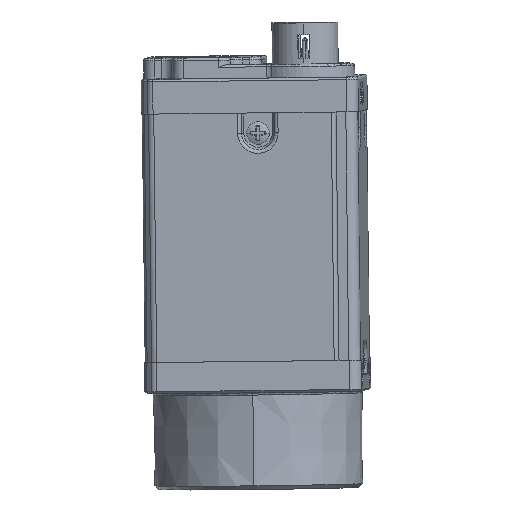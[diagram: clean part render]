
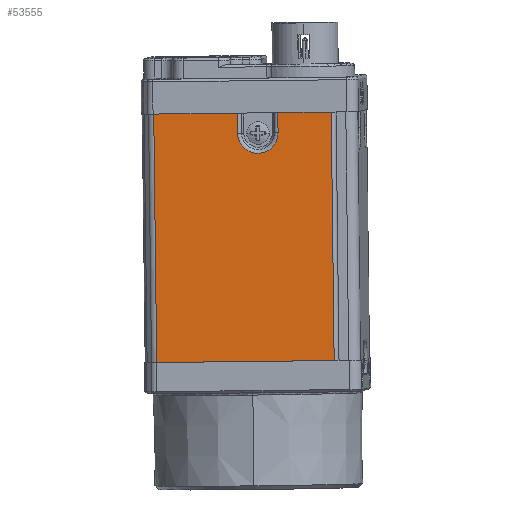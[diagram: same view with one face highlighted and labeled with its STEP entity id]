
A CAD part, left-side view. The second image highlights one B-rep face of the part: STEP entity #53555.
In plain terms, the highlighted planar face has unit normal (-0.999, 0.046, -0.012).
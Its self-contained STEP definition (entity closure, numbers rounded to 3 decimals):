
#1727=DIRECTION('',(-0.047,-0.999,0.011));
#1728=VECTOR('',#1727,23.736);
#1729=CARTESIAN_POINT('',(101.221,27.655,14.297));
#1730=LINE('',#1729,#1728);
#1756=DIRECTION('',(0.047,0.999,-0.011));
#1757=VECTOR('',#1756,7.142);
#1758=CARTESIAN_POINT('',(99.742,4.34,47.761));
#1759=LINE('',#1758,#1757);
#1764=DIRECTION('',(0.047,0.999,-0.011));
#1765=VECTOR('',#1764,11.177);
#1766=CARTESIAN_POINT('',(100.327,16.884,47.619));
#1767=LINE('',#1766,#1765);
#1772=CARTESIAN_POINT('',(100.847,28.048,47.493));
#18235=DIRECTION('',(-0.011,0.012,1.));
#18236=VECTOR('',#18235,33.2);
#18237=CARTESIAN_POINT('',(101.221,27.655,14.297));
#18238=LINE('',#18237,#18236);
#18239=CARTESIAN_POINT('',(100.231,14.146,44.95));
#18240=DIRECTION('',(-0.999,0.046,-0.012));
#18241=DIRECTION('',(0.047,0.999,-0.011));
#18242=AXIS2_PLACEMENT_3D('',#18239,#18240,#18241);
#18244=CARTESIAN_POINT('',(100.231,14.146,44.95));
#18245=DIRECTION('',(-0.999,0.046,-0.012));
#18246=DIRECTION('',(0.047,0.992,-0.114));
#18247=AXIS2_PLACEMENT_3D('',#18244,#18245,#18246);
#18249=DIRECTION('',(-0.011,0.012,1.));
#18250=VECTOR('',#18249,33.2);
#18251=CARTESIAN_POINT('',(100.115,3.946,14.566));
#18252=LINE('',#18251,#18250);
#18262=DIRECTION('',(-0.011,0.012,1.));
#18263=VECTOR('',#18262,2.7);
#18264=CARTESIAN_POINT('',(100.357,16.852,44.92));
#18265=LINE('',#18264,#18263);
#18301=DIRECTION('',(0.011,-0.012,-1.));
#18302=VECTOR('',#18301,2.7);
#18303=CARTESIAN_POINT('',(100.074,11.473,47.681));
#18304=LINE('',#18303,#18302);
#22503=CARTESIAN_POINT('',(100.357,16.852,44.92));
#22504=CARTESIAN_POINT('',(100.359,16.834,44.643));
#22505=VERTEX_POINT('',#22503);
#22506=VERTEX_POINT('',#22504);
#22507=CARTESIAN_POINT('',(100.105,11.441,44.981));
#22508=VERTEX_POINT('',#22507);
#22531=CARTESIAN_POINT('',(101.221,27.655,14.297));
#22532=CARTESIAN_POINT('',(100.115,3.946,14.566));
#22533=VERTEX_POINT('',#22531);
#22534=VERTEX_POINT('',#22532);
#24626=VERTEX_POINT('',#1772);
#24627=CARTESIAN_POINT('',(99.742,4.34,47.761));
#24628=CARTESIAN_POINT('',(100.074,11.473,47.681));
#24629=VERTEX_POINT('',#24627);
#24630=VERTEX_POINT('',#24628);
#24631=CARTESIAN_POINT('',(100.327,16.884,47.619));
#24632=VERTEX_POINT('',#24631);
#53534=CARTESIAN_POINT('',(100.481,15.997,31.029));
#53535=DIRECTION('',(0.999,-0.046,0.012));
#53536=DIRECTION('',(0.047,0.999,-0.011));
#53537=AXIS2_PLACEMENT_3D('',#53534,#53535,#53536);
#53538=PLANE('',#53537);
#53539=ORIENTED_EDGE('',*,*,#27114,.F.);
#53541=ORIENTED_EDGE('',*,*,#53540,.F.);
#53542=ORIENTED_EDGE('',*,*,#27067,.F.);
#53543=ORIENTED_EDGE('',*,*,#27088,.T.);
#53544=ORIENTED_EDGE('',*,*,#27117,.F.);
#53546=ORIENTED_EDGE('',*,*,#53545,.F.);
#53548=ORIENTED_EDGE('',*,*,#53547,.T.);
#53550=ORIENTED_EDGE('',*,*,#53549,.T.);
#53552=ORIENTED_EDGE('',*,*,#53551,.F.);
#53553=EDGE_LOOP('',(#53539,#53541,#53542,#53543,#53544,#53546,#53548,#53550,
#53552));
#53554=FACE_OUTER_BOUND('',#53553,.F.);
#53555=ADVANCED_FACE('',(#53554),#53538,.F.);
#18243=CIRCLE('',#18242,2.708);
#18248=CIRCLE('',#18247,2.708);
#27067=EDGE_CURVE('',#22533,#22534,#1730,.T.);
#27088=EDGE_CURVE('',#22533,#24626,#18238,.T.);
#27114=EDGE_CURVE('',#24629,#24630,#1759,.T.);
#27117=EDGE_CURVE('',#24632,#24626,#1767,.T.);
#53540=EDGE_CURVE('',#22534,#24629,#18252,.T.);
#53545=EDGE_CURVE('',#22505,#24632,#18265,.T.);
#53547=EDGE_CURVE('',#22505,#22506,#18243,.T.);
#53549=EDGE_CURVE('',#22506,#22508,#18248,.T.);
#53551=EDGE_CURVE('',#24630,#22508,#18304,.T.);
